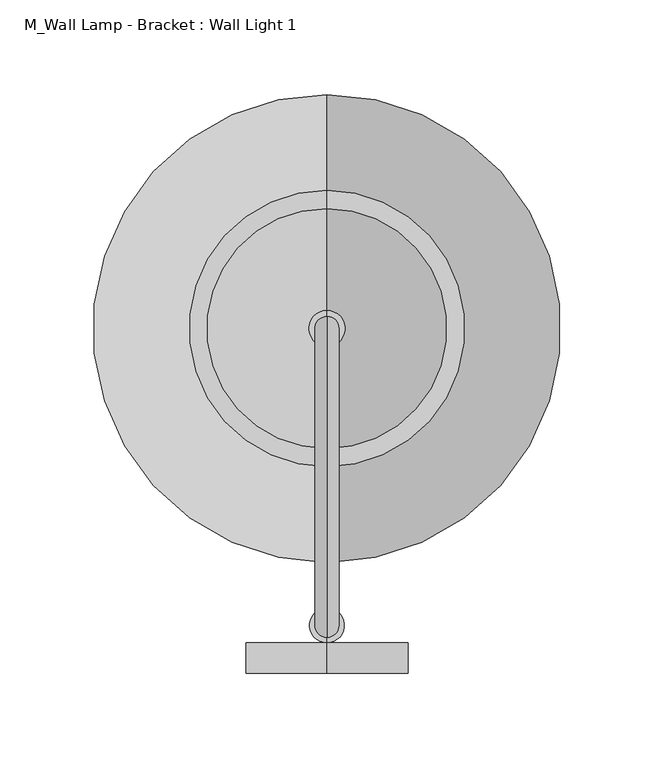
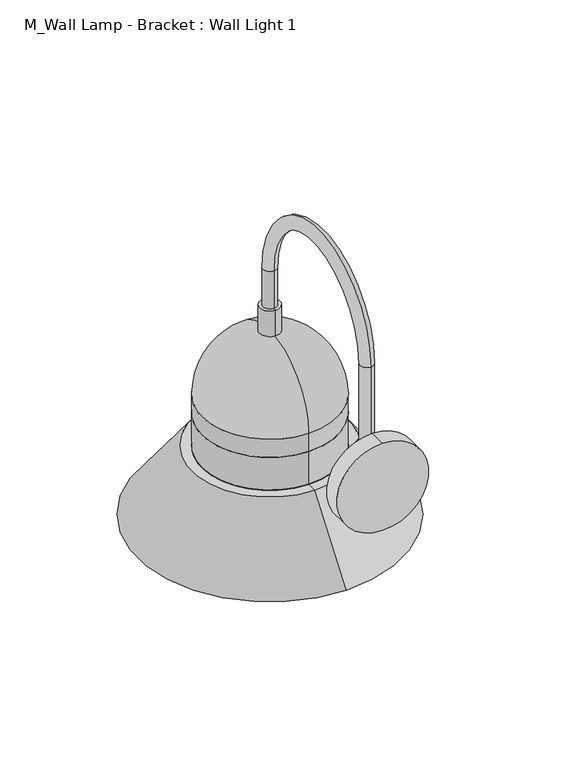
"""IFC4 building model written with IfcOpenShell, lengths in millimetres: light fixture geometry, M_Wall Lamp - Bracket : Wall Light 1."""

from ifc_helpers import new_model, si_unit, point, frame, frame_2d, origin, place, context, project, spatial, polyline, circle_curve, ellipse_curve, trimmed, segment, composite_curve, outline, extrude, source, transform, mapped, element, save
from ifc_brep_helpers import plane_surface, cylinder_surface, revolved_surface, advanced_brep


def m_wall_lamp_bracket_wall_light_1_86392911(model_context):
    return source(origin(), model_context, "Body", "SolidModel", [
        advanced_brep(
        [(-36.3556627, 101.6395413, 2413.7644247), (-36.3556627, 114.3395413, 2413.7644247), (-36.3556627, 114.3395413, 2334.6251468), (-36.3556627, 101.6395413, 2334.6251468), (-36.3556627, 271.4625, 2413.7644247), (-36.3556627, 258.7625, 2413.7644247), (-36.3556627, 271.4625, 2376.6250104), (-36.3556627, 258.7625, 2376.6250104), (-36.3556627, 98.7893793, 2334.6251468), (-36.3556627, 117.1897034, 2334.6251468), (-36.3556627, 117.1897034, 2307.1079598), (-36.3556627, 98.7893793, 2307.1079598), (-36.3556627, 107.9895413, 2297.9077977)],
        [
            (0, 1, circle_curve(frame((-36.3556627, 107.9895413, 2413.7644247), z_axis=(0.0, 0.0, -1.0), x_axis=(0.0, 1.0, 0.0)), 6.35)),
            (1, 2),
            (2, 3, circle_curve(frame((-36.3556627, 107.9895413, 2334.6251468), z_axis=(0.0, 0.0, 1.0), x_axis=(0.0, 1.0, 0.0)), 6.35)),
            (3, 0),
            (1, 0, circle_curve(frame((-36.3556627, 107.9895413, 2413.7644247), z_axis=(0.0, 0.0, -1.0), x_axis=(0.0, 1.0, 0.0)), 6.35)),
            (3, 2, circle_curve(frame((-36.3556627, 107.9895413, 2334.6251468), z_axis=(0.0, 0.0, 1.0), x_axis=(0.0, 1.0, 0.0)), 6.35)),
            (0, 4, circle_curve(frame((-36.3556627, 186.5510207, 2413.7644247), z_axis=(-1.0, 0.0, 0.0), x_axis=(0.0, -1.0, 0.0)), 84.9114793)),
            (4, 5, circle_curve(frame((-36.3556627, 265.1125, 2413.7644247), z_axis=(0.0, 0.0, 1.0), x_axis=(0.0, -1.0, 0.0)), 6.35)),
            (5, 1, circle_curve(frame((-36.3556627, 186.5510207, 2413.7644247), z_axis=(1.0, 0.0, 0.0), x_axis=(0.0, -1.0, 0.0)), 72.2114793)),
            (5, 4, circle_curve(frame((-36.3556627, 265.1125, 2413.7644247), z_axis=(0.0, 0.0, 1.0), x_axis=(0.0, -1.0, 0.0)), 6.35)),
            (6, 7, circle_curve(frame((-36.3556627, 265.1125, 2376.6250104), z_axis=(0.0, 0.0, -1.0), x_axis=(0.0, -1.0, 0.0)), 6.35)),
            (7, 6, circle_curve(frame((-36.3556627, 265.1125, 2376.6250104), z_axis=(0.0, 0.0, -1.0), x_axis=(0.0, -1.0, 0.0)), 6.35)),
            (4, 6),
            (7, 5),
            (8, 9, circle_curve(frame((-36.3556627, 107.9895413, 2334.6251468), z_axis=(0.0, 0.0, 1.0), x_axis=(0.0, -1.0, 0.0)), 9.2001621)),
            (9, 2),
            (3, 8),
            (9, 8, circle_curve(frame((-36.3556627, 107.9895413, 2334.6251468), z_axis=(0.0, 0.0, 1.0), x_axis=(0.0, -1.0, 0.0)), 9.2001621)),
            (10, 11, circle_curve(frame((-36.3556627, 107.9895413, 2307.1079598), z_axis=(0.0, 0.0, -1.0), x_axis=(0.0, -1.0, 0.0)), 9.2001621)),
            (11, 12, circle_curve(frame((-36.3556627, 107.9895413, 2307.1079598), z_axis=(1.0, 0.0, 0.0), x_axis=(0.0, -1.0, 0.0)), 9.2001621)),
            (12, 10, circle_curve(frame((-36.3556627, 107.9895413, 2307.1079598), z_axis=(1.0, 0.0, 0.0), x_axis=(0.0, 1.0, 0.0)), 9.2001621)),
            (11, 10, circle_curve(frame((-36.3556627, 107.9895413, 2307.1079598), z_axis=(0.0, 0.0, -1.0), x_axis=(0.0, -1.0, 0.0)), 9.2001621)),
            (8, 11),
            (10, 9),
        ],
        [
            cylinder_surface(frame((-36.3556627, 107.9895413, 2317.75), z_axis=(0.0, 0.0, -1.0), x_axis=(0.0, 1.0, 0.0)), 6.35),
            revolved_surface(trimmed(ellipse_curve(frame((-36.3556627, 107.9895413, 2413.7644247), z_axis=(0.0, 0.0, -1.0), x_axis=(0.0, 1.0, 0.0)), 6.35, 6.35), [point((-36.3556627, 101.6395413, 2413.7644247))], [point((-36.3556627, 114.3395413, 2413.7644247))], True, "CARTESIAN"), (-36.3556627, 186.5510207, 2413.7644247), (-1.0, 0.0, 0.0)),
            revolved_surface(trimmed(ellipse_curve(frame((-36.3556627, 107.9895413, 2413.7644247), z_axis=(0.0, 0.0, -1.0), x_axis=(0.0, 1.0, 0.0)), 6.35, 6.35), [point((-36.3556627, 114.3395413, 2413.7644247))], [point((-36.3556627, 101.6395413, 2413.7644247))], True, "CARTESIAN"), (-36.3556627, 186.5510207, 2413.7644247), (-1.0, 0.0, 0.0)),
            plane_surface(frame((-36.3556627, 258.7625, 2376.6250104), z_axis=(0.0, 0.0, -1.0), x_axis=(-1.0, 0.0, 0.0))),
            cylinder_surface(frame((-36.3556627, 265.1125, 2413.7644247), z_axis=(0.0, 0.0, 1.0), x_axis=(0.0, -1.0, 0.0)), 6.35),
            plane_surface(frame((-36.3556627, 107.9895413, 2334.6251468), z_axis=(0.0, 0.0, 1.0), x_axis=(0.0, -1.0, 0.0))),
            revolved_surface(trimmed(ellipse_curve(frame((-36.3556627, 107.9895413, 2307.1079598), z_axis=(-1.0, 0.0, 0.0), x_axis=(0.0, -1.0, 0.0)), 9.2001621, 9.2001621), [point((-36.3556627, 107.9895413, 2297.9077977))], [point((-36.3556627, 98.7893793, 2307.1079598))], True, "CARTESIAN"), (-36.3556627, 107.9895413, 2472.7469008), (0.0, 0.0, 1.0)),
            cylinder_surface(frame((-36.3556627, 107.9895413, 2472.7469008), z_axis=(0.0, 0.0, 1.0), x_axis=(0.0, -1.0, 0.0)), 9.2001621),
        ],
        [
            (0, [[1, 2, 3, 4]]),
            (0, [[5, -4, 6, -2]]),
            (1, [[-1, 7, 8, 9]]),
            (2, [[-5, -9, 10, -7]]),
            (3, [[11, 12]]),
            (4, [[-8, 13, -12, 14]]),
            (4, [[-10, -14, -11, -13]]),
            (5, [[15, 16, -6, 17]]),
            (5, [[18, -17, -3, -16]]),
            (6, [[19, 20, 21]]),
            (6, [[-20, 22, -21]]),
            (7, [[-15, 23, -19, 24]]),
            (7, [[-18, -24, -22, -23]]),
        ],
    ),
        extrude(outline(composite_curve([segment(trimmed(circle_curve(frame_2d((2307.1079598, -36.3556627)), 43.0116676), [point((2264.0962922, -36.3556627))], [point((2350.1196273, -36.3556627))], False, "CARTESIAN"), True, "CONTINUOUS"), segment(trimmed(circle_curve(frame_2d((2307.1079598, -36.3556627)), 43.0116676), [point((2350.1196273, -36.3556627))], [point((2264.0962922, -36.3556627))], False, "CARTESIAN"), True, "CONTINUOUS")], self_intersect=False)), frame((0.0, 82.55, 0.0), z_axis=(0.0, 1.0, 0.0), x_axis=(0.0, 0.0, 1.0)), (0.0, 0.0, 1.0), 16.2393793),
        advanced_brep(
        [(-36.3556627, 328.6125, 2237.5701357), (-36.3556627, 201.6125, 2237.5701357), (-36.3556627, 201.6125, 2197.1), (-36.3556627, 328.6125, 2197.1), (-36.3556627, 265.1125, 2237.5701357), (-36.3556627, 265.1125, 2133.6)],
        [
            (0, 1, circle_curve(frame((-36.3556627, 265.1125, 2237.5701357), z_axis=(0.0, 0.0, -1.0), x_axis=(0.0, -1.0, 0.0)), 63.5)),
            (1, 2),
            (2, 3, circle_curve(frame((-36.3556627, 265.1125, 2197.1), z_axis=(0.0, 0.0, 1.0), x_axis=(0.0, -1.0, 0.0)), 63.5)),
            (3, 0),
            (1, 0, circle_curve(frame((-36.3556627, 265.1125, 2237.5701357), z_axis=(0.0, 0.0, -1.0), x_axis=(0.0, -1.0, 0.0)), 63.5)),
            (3, 2, circle_curve(frame((-36.3556627, 265.1125, 2197.1), z_axis=(0.0, 0.0, 1.0), x_axis=(0.0, -1.0, 0.0)), 63.5)),
            (4, 1),
            (0, 4),
            (2, 5, circle_curve(frame((-36.3556627, 265.1125, 2197.1), z_axis=(1.0, 0.0, 0.0), x_axis=(0.0, -1.0, 0.0)), 63.5)),
            (5, 3, circle_curve(frame((-36.3556627, 265.1125, 2197.1), z_axis=(1.0, 0.0, 0.0), x_axis=(0.0, 1.0, 0.0)), 63.5)),
        ],
        [
            cylinder_surface(frame((-36.3556627, 265.1125, -914.4), z_axis=(0.0, 0.0, 1.0), x_axis=(0.0, -1.0, 0.0)), 63.5),
            plane_surface(frame((-36.3556627, 265.1125, 2237.5701357), z_axis=(0.0, 0.0, 1.0), x_axis=(0.0, -1.0, 0.0))),
            revolved_surface(trimmed(ellipse_curve(frame((-36.3556627, 265.1125, 2197.1), z_axis=(-1.0, 0.0, 0.0), x_axis=(0.0, -1.0, 0.0)), 63.5, 63.5), [point((-36.3556627, 265.1125, 2133.6))], [point((-36.3556627, 201.6125, 2197.1))], True, "CARTESIAN"), (-36.3556627, 265.1125, -914.4), (0.0, 0.0, 1.0)),
        ],
        [
            (0, [[1, 2, 3, 4]]),
            (0, [[5, -4, 6, -2]]),
            (1, [[7, -1, 8]]),
            (1, [[-8, -5, -7]]),
            (2, [[-3, 9, 10]]),
            (2, [[-6, -10, -9]]),
        ],
    ),
        advanced_brep(
        [(-36.3556627, 328.6125, 2269.8272766), (-36.3556627, 201.6125, 2269.8272766), (-36.3556627, 201.6125, 2237.5701357), (-36.3556627, 328.6125, 2237.5701357), (-36.3556627, 325.4375, 2269.8272766), (-36.3556627, 204.7875, 2269.8272766), (-36.3556627, 325.4375, 2234.3951357), (-36.3556627, 204.7875, 2234.3951357), (-36.3556627, 336.8669546, 2234.3951357), (-36.3556627, 193.3580454, 2234.3951357), (-36.3556627, 384.797628, 2169.5241129), (-36.3556627, 145.427372, 2169.5241129), (-36.3556627, 388.9375, 2169.5241129), (-36.3556627, 141.2875, 2169.5241129), (-36.3556627, 338.3501529, 2237.5701357), (-36.3556627, 191.8748471, 2237.5701357)],
        [
            (0, 1, circle_curve(frame((-36.3556627, 265.1125, 2269.8272766), z_axis=(0.0, 0.0, -1.0), x_axis=(0.0, -1.0, 0.0)), 63.5)),
            (1, 2),
            (2, 3, circle_curve(frame((-36.3556627, 265.1125, 2237.5701357), z_axis=(0.0, 0.0, 1.0), x_axis=(0.0, -1.0, 0.0)), 63.5)),
            (3, 0),
            (1, 0, circle_curve(frame((-36.3556627, 265.1125, 2269.8272766), z_axis=(0.0, 0.0, -1.0), x_axis=(0.0, -1.0, 0.0)), 63.5)),
            (3, 2, circle_curve(frame((-36.3556627, 265.1125, 2237.5701357), z_axis=(0.0, 0.0, 1.0), x_axis=(0.0, -1.0, 0.0)), 63.5)),
            (4, 5, circle_curve(frame((-36.3556627, 265.1125, 2269.8272766), z_axis=(0.0, 0.0, -1.0), x_axis=(0.0, -1.0, 0.0)), 60.325)),
            (5, 1),
            (0, 4),
            (5, 4, circle_curve(frame((-36.3556627, 265.1125, 2269.8272766), z_axis=(0.0, 0.0, -1.0), x_axis=(0.0, -1.0, 0.0)), 60.325)),
            (6, 7, circle_curve(frame((-36.3556627, 265.1125, 2234.3951357), z_axis=(0.0, 0.0, -1.0), x_axis=(0.0, -1.0, 0.0)), 60.325)),
            (7, 5),
            (4, 6),
            (7, 6, circle_curve(frame((-36.3556627, 265.1125, 2234.3951357), z_axis=(0.0, 0.0, -1.0), x_axis=(0.0, -1.0, 0.0)), 60.325)),
            (8, 9, circle_curve(frame((-36.3556627, 265.1125, 2234.3951357), z_axis=(0.0, 0.0, -1.0), x_axis=(0.0, -1.0, 0.0)), 71.7544546)),
            (9, 7),
            (6, 8),
            (9, 8, circle_curve(frame((-36.3556627, 265.1125, 2234.3951357), z_axis=(0.0, 0.0, -1.0), x_axis=(0.0, -1.0, 0.0)), 71.7544546)),
            (10, 11, circle_curve(frame((-36.3556627, 265.1125, 2169.5241129), z_axis=(0.0, 0.0, -1.0), x_axis=(0.0, -1.0, 0.0)), 119.685128)),
            (11, 9),
            (8, 10),
            (11, 10, circle_curve(frame((-36.3556627, 265.1125, 2169.5241129), z_axis=(0.0, 0.0, -1.0), x_axis=(0.0, -1.0, 0.0)), 119.685128)),
            (12, 13, circle_curve(frame((-36.3556627, 265.1125, 2169.5241129), z_axis=(0.0, 0.0, -1.0), x_axis=(0.0, -1.0, 0.0)), 123.825)),
            (13, 11),
            (10, 12),
            (13, 12, circle_curve(frame((-36.3556627, 265.1125, 2169.5241129), z_axis=(0.0, 0.0, -1.0), x_axis=(0.0, -1.0, 0.0)), 123.825)),
            (14, 15, circle_curve(frame((-36.3556627, 265.1125, 2237.5701357), z_axis=(0.0, 0.0, -1.0), x_axis=(0.0, -1.0, 0.0)), 73.2376529)),
            (15, 13),
            (12, 14),
            (15, 14, circle_curve(frame((-36.3556627, 265.1125, 2237.5701357), z_axis=(0.0, 0.0, -1.0), x_axis=(0.0, -1.0, 0.0)), 73.2376529)),
            (2, 15),
            (14, 3),
        ],
        [
            cylinder_surface(frame((-36.3556627, 265.1125, -914.4), z_axis=(0.0, 0.0, 1.0), x_axis=(0.0, -1.0, 0.0)), 63.5),
            plane_surface(frame((-36.3556627, 265.1125, 2269.8272766), z_axis=(0.0, 0.0, 1.0), x_axis=(0.0, -1.0, 0.0))),
            revolved_surface(polyline([(-36.3556627, 204.78750000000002, 2269.8272766), (-36.3556627, 204.78750000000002, 2234.3951357)]), (-36.3556627, 265.1125, -914.4), (0.0, 0.0, 1.0)),
            plane_surface(frame((-36.3556627, 265.1125, 2234.3951357), z_axis=(0.0, 0.0, -1.0), x_axis=(0.0, -1.0, 0.0))),
            revolved_surface(polyline([(-36.3556627, 193.3580454, 2234.3951357), (-36.3556627, 145.427372, 2169.5241129)]), (-36.3556627, 265.1125, -914.4), (0.0, 0.0, 1.0)),
            plane_surface(frame((-36.3556627, 265.1125, 2169.5241129), z_axis=(0.0, 0.0, -1.0), x_axis=(0.0, -1.0, 0.0))),
            revolved_surface(polyline([(-36.3556627, 141.2875, 2169.5241129), (-36.3556627, 191.8748471, 2237.5701357)]), (-36.3556627, 265.1125, -914.4), (0.0, 0.0, 1.0)),
            plane_surface(frame((-36.3556627, 265.1125, 2237.5701357), z_axis=(0.0, 0.0, 1.0), x_axis=(0.0, -1.0, 0.0))),
        ],
        [
            (0, [[1, 2, 3, 4]]),
            (0, [[5, -4, 6, -2]]),
            (1, [[7, 8, -1, 9]]),
            (1, [[10, -9, -5, -8]]),
            (2, [[11, 12, -7, 13]]),
            (2, [[14, -13, -10, -12]]),
            (3, [[15, 16, -11, 17]]),
            (3, [[18, -17, -14, -16]]),
            (4, [[19, 20, -15, 21]]),
            (4, [[22, -21, -18, -20]]),
            (5, [[23, 24, -19, 25]]),
            (5, [[26, -25, -22, -24]]),
            (6, [[27, 28, -23, 29]]),
            (6, [[30, -29, -26, -28]]),
            (7, [[-3, 31, -27, 32]]),
            (7, [[-6, -32, -30, -31]]),
        ],
    ),
        advanced_brep(
        [(-36.3556627, 328.6125, 2287.7818991), (-36.3556627, 201.6125, 2287.7818991), (-36.3556627, 201.6125, 2269.8272766), (-36.3556627, 328.6125, 2269.8272766), (-36.3556627, 265.1125, 2351.2818991), (-36.3556627, 265.1125, 2269.8272766)],
        [
            (0, 1, circle_curve(frame((-36.3556627, 265.1125, 2287.7818991), z_axis=(0.0, 0.0, -1.0), x_axis=(0.0, -1.0, 0.0)), 63.5)),
            (1, 2),
            (2, 3, circle_curve(frame((-36.3556627, 265.1125, 2269.8272766), z_axis=(0.0, 0.0, 1.0), x_axis=(0.0, -1.0, 0.0)), 63.5)),
            (3, 0),
            (1, 0, circle_curve(frame((-36.3556627, 265.1125, 2287.7818991), z_axis=(0.0, 0.0, -1.0), x_axis=(0.0, -1.0, 0.0)), 63.5)),
            (3, 2, circle_curve(frame((-36.3556627, 265.1125, 2269.8272766), z_axis=(0.0, 0.0, 1.0), x_axis=(0.0, -1.0, 0.0)), 63.5)),
            (4, 1, circle_curve(frame((-36.3556627, 265.1125, 2287.7818991), z_axis=(1.0, 0.0, 0.0), x_axis=(0.0, -1.0, 0.0)), 63.5)),
            (0, 4, circle_curve(frame((-36.3556627, 265.1125, 2287.7818991), z_axis=(1.0, 0.0, 0.0), x_axis=(0.0, 1.0, 0.0)), 63.5)),
            (2, 5),
            (5, 3),
        ],
        [
            cylinder_surface(frame((-36.3556627, 265.1125, -914.4), z_axis=(0.0, 0.0, 1.0), x_axis=(0.0, -1.0, 0.0)), 63.5),
            revolved_surface(trimmed(ellipse_curve(frame((-36.3556627, 265.1125, 2287.7818991), z_axis=(-1.0, 0.0, 0.0), x_axis=(0.0, -1.0, 0.0)), 63.5, 63.5), [point((-36.3556627, 201.6125, 2287.7818991))], [point((-36.3556627, 265.1125, 2351.2818991))], True, "CARTESIAN"), (-36.3556627, 265.1125, -914.4), (0.0, 0.0, 1.0)),
            plane_surface(frame((-36.3556627, 265.1125, 2269.8272766), z_axis=(0.0, 0.0, -1.0), x_axis=(0.0, -1.0, 0.0))),
        ],
        [
            (0, [[1, 2, 3, 4]]),
            (0, [[5, -4, 6, -2]]),
            (1, [[7, -1, 8]]),
            (1, [[-8, -5, -7]]),
            (2, [[-3, 9, 10]]),
            (2, [[-6, -10, -9]]),
        ],
    ),
        advanced_brep(
        [(-36.3556627, 274.6375, 2351.5511541), (-36.3556627, 255.5875, 2351.5511541), (-36.3556627, 265.1125, 2351.5511541), (-36.3556627, 274.6375, 2376.6250104), (-36.3556627, 255.5875, 2376.6250104), (-36.3556627, 265.1125, 2376.6250104)],
        [
            (0, 1, circle_curve(frame((-36.3556627, 265.1125, 2351.5511541), z_axis=(0.0, 0.0, -1.0), x_axis=(0.0, -1.0, 0.0)), 9.525)),
            (1, 2),
            (2, 0),
            (1, 0, circle_curve(frame((-36.3556627, 265.1125, 2351.5511541), z_axis=(0.0, 0.0, -1.0), x_axis=(0.0, -1.0, 0.0)), 9.525)),
            (3, 4, circle_curve(frame((-36.3556627, 265.1125, 2376.6250104), z_axis=(0.0, 0.0, -1.0), x_axis=(0.0, -1.0, 0.0)), 9.525)),
            (4, 1),
            (0, 3),
            (4, 3, circle_curve(frame((-36.3556627, 265.1125, 2376.6250104), z_axis=(0.0, 0.0, -1.0), x_axis=(0.0, -1.0, 0.0)), 9.525)),
            (5, 4),
            (3, 5),
        ],
        [
            plane_surface(frame((-36.3556627, 265.1125, 2351.5511541), z_axis=(0.0, 0.0, -1.0), x_axis=(0.0, -1.0, 0.0))),
            cylinder_surface(frame((-36.3556627, 265.1125, -914.4), z_axis=(0.0, 0.0, 1.0), x_axis=(0.0, -1.0, 0.0)), 9.525),
            plane_surface(frame((-36.3556627, 265.1125, 2376.6250104), z_axis=(0.0, 0.0, 1.0), x_axis=(0.0, -1.0, 0.0))),
        ],
        [
            (0, [[1, 2, 3]]),
            (0, [[4, -3, -2]]),
            (1, [[5, 6, -1, 7]]),
            (1, [[8, -7, -4, -6]]),
            (2, [[9, -5, 10]]),
            (2, [[-10, -8, -9]]),
        ],
    ),
    ])


if __name__ == "__main__":
    model = new_model("IFC4")
    model_context = context("Model", 3, world=origin())
    ifc_project = project(units=[si_unit("LENGTHUNIT", "METRE", prefix="MILLI")], contexts=[model_context])
    site = spatial("IfcSite", under=ifc_project)
    building = spatial("IfcBuilding", under=site)
    placement = place(None, origin())
    m_wall_lamp_bracket_wall_light_1_shape = m_wall_lamp_bracket_wall_light_1_86392911(model_context)
    element("IfcLightFixture", 1, ObjectType="M_Wall Lamp - Bracket : Wall Light 1", at=placement, inside=building, context=model_context, shape_type="MappedRepresentation", body=[
        mapped(m_wall_lamp_bracket_wall_light_1_shape, transform((0.0, 0.0, 0.0), x_axis=(1.0, 0.0, 0.0), y_axis=(0.0, 1.0, 0.0), z_axis=(0.0, 0.0, 1.0))),
    ])
    save(model, "model.ifc")
